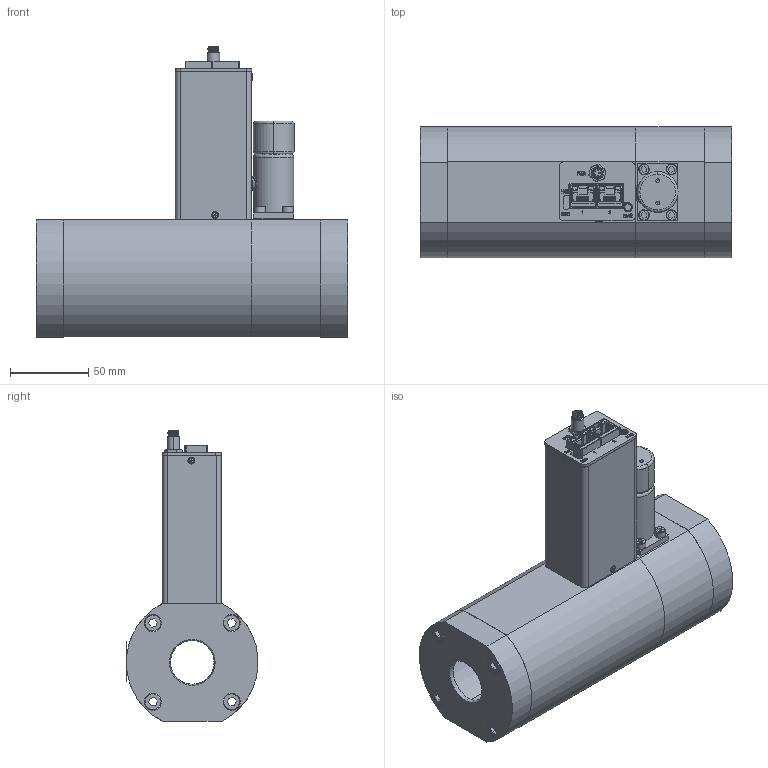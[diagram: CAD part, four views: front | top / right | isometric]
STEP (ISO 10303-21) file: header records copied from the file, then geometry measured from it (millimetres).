
FILE_DESCRIPTION (( 'STEP AP214' ), '1' );
FILE_NAME ('SLA5853-7-2G-2-A-REVB.STEP', '2021-08-12T15:25:49', ( '' ), ( '' ), 'SwSTEP 2.0', 'SolidWorks 2020', '' );
FILE_SCHEMA (( 'AUTOMOTIVE_DESIGN' ));
Length unit declared in the file: inch
Products named in the file (1): SLA5853-7-2G-2-A-REVB
Bounding box: 198.8 x 84.02 x 184.93 mm (x, y, z)
Volume: 183157.9 mm3; surface area: 186306.9 mm2
Topology: 75 solids, 75 shells, 2377 faces, 6132 edges, 3960 vertices
Faces by surface type: plane 1569, cylinder 460, cone 202, bspline 146
Entity records: 77043 total; most frequent: CARTESIAN_POINT 17880, ORIENTED_EDGE 12236, DIRECTION 11673, EDGE_CURVE 6118, LINE 4595, VECTOR 4595, VERTEX_POINT 3960, AXIS2_PLACEMENT_3D 3539
